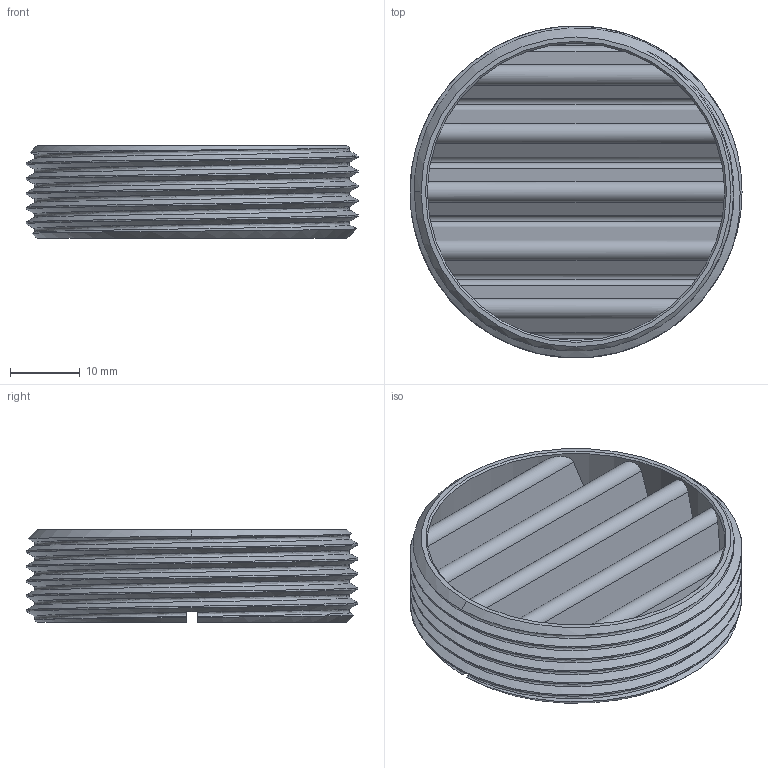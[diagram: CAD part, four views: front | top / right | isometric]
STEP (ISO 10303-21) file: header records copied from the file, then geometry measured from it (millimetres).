
FILE_DESCRIPTION (( 'STEP AP214' ), '1' );
FILE_NAME ('3DFSBS1871000A.STEP', '2021-03-31T17:51:50', ( '' ), ( '' ), 'SwSTEP 2.0', 'SolidWorks 2019', '' );
FILE_SCHEMA (( 'AUTOMOTIVE_DESIGN' ));
Length unit declared in the file: inch
Products named in the file (1): 3DFSBS1871000A
Bounding box: 47.62 x 47.6 x 13.34 mm (x, y, z)
Volume: 5870.4 mm3; surface area: 12973 mm2
Topology: 2 solids, 2 shells, 285 faces, 769 edges, 511 vertices
Faces by surface type: plane 135, bspline 88, cylinder 51, cone 11
Entity records: 20167 total; most frequent: CARTESIAN_POINT 10858, ORIENTED_EDGE 1538, DIRECTION 862, EDGE_CURVE 769, VERTEX_POINT 511, VECTOR 416, LINE 416, EDGE_LOOP 310
